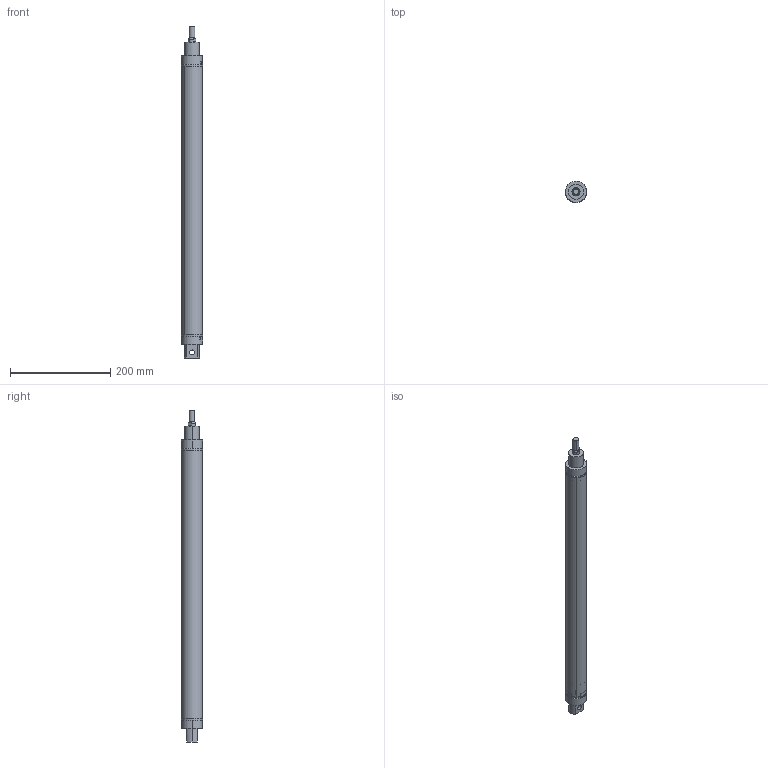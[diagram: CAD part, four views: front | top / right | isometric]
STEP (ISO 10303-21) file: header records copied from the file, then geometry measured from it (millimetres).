
FILE_DESCRIPTION (( 'STEP AP203' ), '1' );
FILE_NAME ('MAC6432S-40X500-CYLINDER.STEP', '2015-08-24T08:23:15', ( 'user' ), ( '' ), 'SwSTEP 2.0', 'SolidWorks 2013', '' );
FILE_SCHEMA (( 'CONFIG_CONTROL_DESIGN' ));
Length unit declared in the file: millimetre
Products named in the file (6): MAC6432S  40X500 M尳; MAC6432S-40X500-CYLINDER; MAC6432S  40 ARKA KAPAK; MAC6432S  40 ORTA PÝSTON; MAC6432S  40X500 BORU; MAC6432S  40 烰 KAPAK
Assembly tree (5 placements, depth 2):
  MAC6432S-40X500-CYLINDER
    MAC6432S  40 ARKA KAPAK
    MAC6432S  40 ORTA PÝSTON
    MAC6432S  40X500 BORU
    MAC6432S  40 烰 KAPAK
    MAC6432S  40X500 M尳
Bounding box: 42 x 42 x 664 mm (x, y, z)
Volume: 303502.9 mm3; surface area: 203141.3 mm2
Topology: 5 solids, 7 shells, 169 faces, 364 edges, 234 vertices
Faces by surface type: cylinder 84, plane 70, cone 15
Entity records: 5594 total; most frequent: CARTESIAN_POINT 1114, DIRECTION 884, ORIENTED_EDGE 728, EDGE_CURVE 364, AXIS2_PLACEMENT_3D 360, VERTEX_POINT 234, EDGE_LOOP 208, CIRCLE 184
